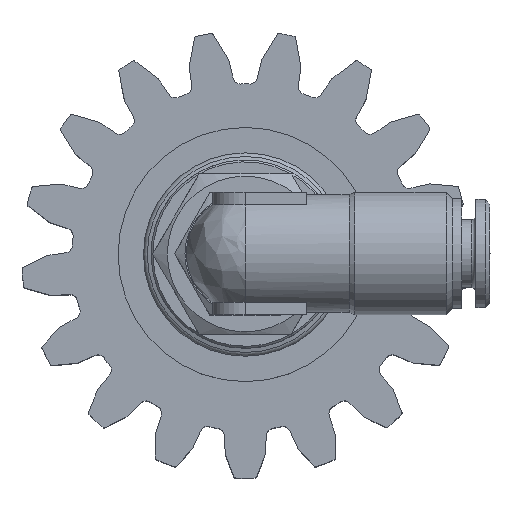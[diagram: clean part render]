
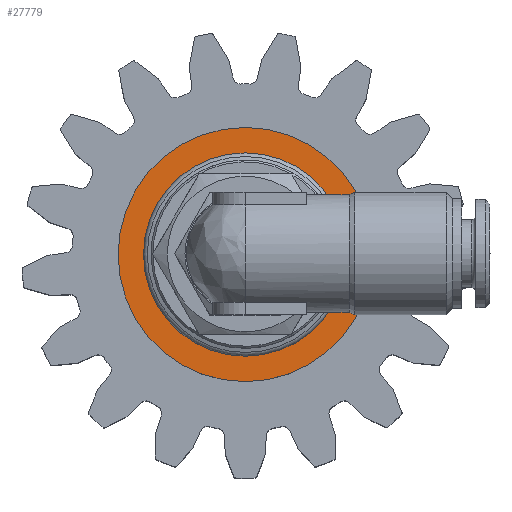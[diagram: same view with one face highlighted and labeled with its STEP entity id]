
A CAD part, top view. The second image highlights one B-rep face of the part: STEP entity #27779.
In plain terms, the highlighted planar face has unit normal (0, 0, 1) as drawn and (0, 1, 0) by its records, which use the part's own axes.
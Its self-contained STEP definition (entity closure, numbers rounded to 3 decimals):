
#335 = CIRCLE ( 'NONE', #18824, 10.8 ) ;
#2657 = EDGE_CURVE ( 'NONE', #7010, #7010, #335, .T. ) ;
#2945 = CARTESIAN_POINT ( 'NONE',  ( 0., 0.6, 0. ) ) ;
#5150 = AXIS2_PLACEMENT_3D ( 'NONE', #5899, #10765, #8471 ) ;
#5899 = CARTESIAN_POINT ( 'NONE',  ( 13.5, 0.6, 0. ) ) ;
#6985 = EDGE_LOOP ( 'NONE', ( #15745 ) ) ;
#7010 = VERTEX_POINT ( 'NONE', #26214 ) ;
#7530 = DIRECTION ( 'NONE',  ( 0., 0., 1. ) ) ;
#8471 = DIRECTION ( 'NONE',  ( 0., 0., -1. ) ) ;
#8631 = PLANE ( 'NONE',  #5150 ) ;
#9253 = CARTESIAN_POINT ( 'NONE',  ( 0., 0.6, 13.5 ) ) ;
#9403 = VERTEX_POINT ( 'NONE', #9253 ) ;
#10765 = DIRECTION ( 'NONE',  ( 0., -1., 0. ) ) ;
#11871 = FACE_BOUND ( 'NONE', #29967, .T. ) ;
#13014 = CARTESIAN_POINT ( 'NONE',  ( 0., 0.6, 0. ) ) ;
#14160 = ORIENTED_EDGE ( 'NONE', *, *, #2657, .F. ) ;
#15745 = ORIENTED_EDGE ( 'NONE', *, *, #27039, .T. ) ;
#15763 = DIRECTION ( 'NONE',  ( 0., 0., 1. ) ) ;
#16823 = DIRECTION ( 'NONE',  ( 0., 1., 0. ) ) ;
#18824 = AXIS2_PLACEMENT_3D ( 'NONE', #2945, #16823, #7530 ) ;
#20205 = AXIS2_PLACEMENT_3D ( 'NONE', #13014, #22352, #15763 ) ;
#22352 = DIRECTION ( 'NONE',  ( 0., 1., 0. ) ) ;
#25608 = CIRCLE ( 'NONE', #20205, 13.5 ) ;
#26214 = CARTESIAN_POINT ( 'NONE',  ( 0., 0.6, 10.8 ) ) ;
#27039 = EDGE_CURVE ( 'NONE', #9403, #9403, #25608, .T. ) ;
#27779 = ADVANCED_FACE ( 'NONE', ( #11871, #29389 ), #8631, .F. ) ;
#29389 = FACE_OUTER_BOUND ( 'NONE', #6985, .T. ) ;
#29967 = EDGE_LOOP ( 'NONE', ( #14160 ) ) ;
